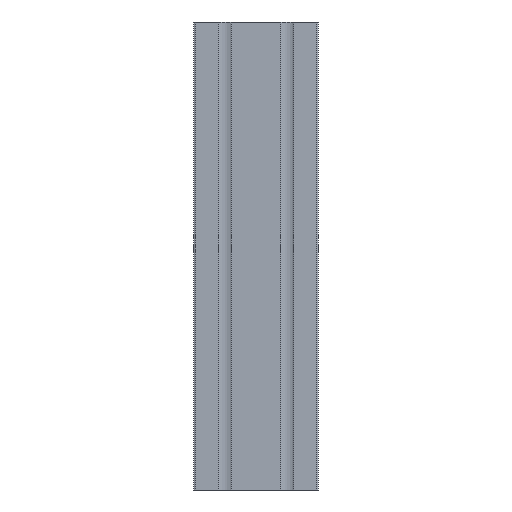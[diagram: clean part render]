
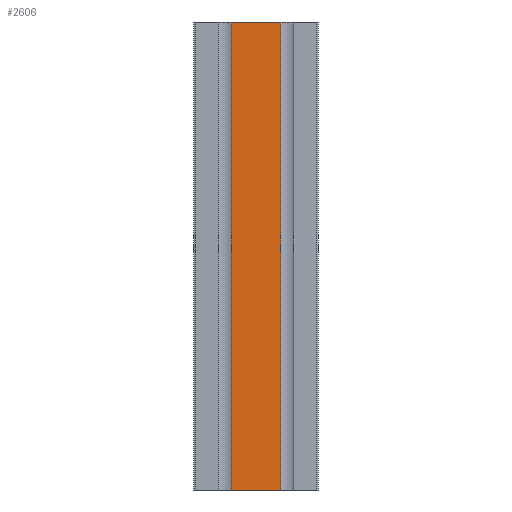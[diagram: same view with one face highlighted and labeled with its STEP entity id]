
A CAD part, left-side view. The second image highlights one B-rep face of the part: STEP entity #2606.
In plain terms, the highlighted planar face has unit normal (-1, 0, 0).
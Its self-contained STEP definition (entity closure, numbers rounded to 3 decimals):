
#69 = LINE ( 'NONE', #4102, #2383 ) ;
#143 = EDGE_CURVE ( 'NONE', #1126, #2793, #1703, .T. ) ;
#225 = FACE_OUTER_BOUND ( 'NONE', #1391, .T. ) ;
#417 = EDGE_CURVE ( 'NONE', #2793, #958, #2927, .T. ) ;
#508 = ORIENTED_EDGE ( 'NONE', *, *, #417, .F. ) ;
#707 = CARTESIAN_POINT ( 'NONE',  ( -40., -15.8, 150. ) ) ;
#788 = DIRECTION ( 'NONE',  ( 0., -1., 0. ) ) ;
#927 = VERTEX_POINT ( 'NONE', #1568 ) ;
#958 = VERTEX_POINT ( 'NONE', #1907 ) ;
#978 = ORIENTED_EDGE ( 'NONE', *, *, #2518, .T. ) ;
#1006 = DIRECTION ( 'NONE',  ( 0., 0., -1. ) ) ;
#1036 = CARTESIAN_POINT ( 'NONE',  ( -40., 15.8, 150. ) ) ;
#1126 = VERTEX_POINT ( 'NONE', #1036 ) ;
#1192 = DIRECTION ( 'NONE',  ( 0., -1., 0. ) ) ;
#1258 = CARTESIAN_POINT ( 'NONE',  ( -40., 15.8, 150. ) ) ;
#1391 = EDGE_LOOP ( 'NONE', ( #3822, #508, #2862, #978 ) ) ;
#1472 = DIRECTION ( 'NONE',  ( 1., 0., 0. ) ) ;
#1568 = CARTESIAN_POINT ( 'NONE',  ( -40., 15.8, -150. ) ) ;
#1651 = CARTESIAN_POINT ( 'NONE',  ( -40., 15.8, -150. ) ) ;
#1703 = LINE ( 'NONE', #1258, #3250 ) ;
#1725 = EDGE_CURVE ( 'NONE', #927, #958, #2105, .T. ) ;
#1907 = CARTESIAN_POINT ( 'NONE',  ( -40., -15.8, -150. ) ) ;
#1931 = CARTESIAN_POINT ( 'NONE',  ( -40., 15.8, 150. ) ) ;
#2002 = DIRECTION ( 'NONE',  ( 0., 0., -1. ) ) ;
#2105 = LINE ( 'NONE', #1651, #3743 ) ;
#2383 = VECTOR ( 'NONE', #3646, 1000. ) ;
#2388 = PLANE ( 'NONE',  #4251 ) ;
#2460 = CARTESIAN_POINT ( 'NONE',  ( -40., -15.8, 150. ) ) ;
#2518 = EDGE_CURVE ( 'NONE', #1126, #927, #69, .T. ) ;
#2606 = ADVANCED_FACE ( 'NONE', ( #225 ), #2388, .F. ) ;
#2793 = VERTEX_POINT ( 'NONE', #707 ) ;
#2862 = ORIENTED_EDGE ( 'NONE', *, *, #143, .F. ) ;
#2927 = LINE ( 'NONE', #2460, #3095 ) ;
#3095 = VECTOR ( 'NONE', #2002, 1000. ) ;
#3250 = VECTOR ( 'NONE', #788, 1000. ) ;
#3646 = DIRECTION ( 'NONE',  ( 0., 0., -1. ) ) ;
#3743 = VECTOR ( 'NONE', #1192, 1000. ) ;
#3822 = ORIENTED_EDGE ( 'NONE', *, *, #1725, .T. ) ;
#4102 = CARTESIAN_POINT ( 'NONE',  ( -40., 15.8, 150. ) ) ;
#4251 = AXIS2_PLACEMENT_3D ( 'NONE', #1931, #1472, #1006 ) ;
